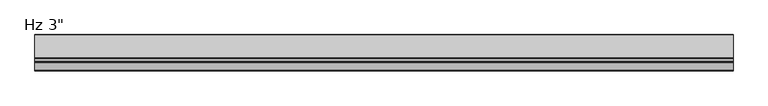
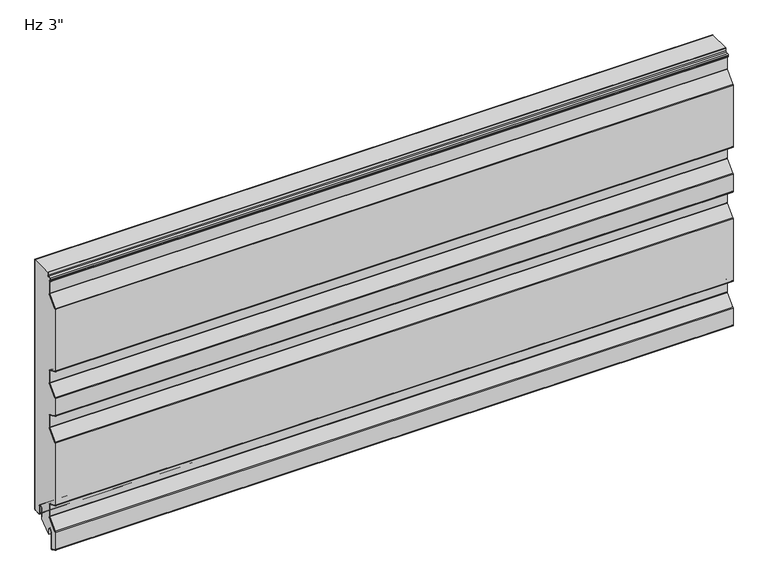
"""IFC4 building model written with IfcOpenShell, lengths in millimetres: plate geometry."""

from ifc_helpers import new_model, si_unit, point, frame, frame_2d, origin, place, context, project, spatial, polyline, circle_curve, trimmed, segment, composite_curve, outline, extrude, source, transform, mapped, element, save


def plate_1bb9bb0e(model_context):
    return source(origin(), model_context, "Body", "SweptSolid", [
        extrude(outline(composite_curve([segment(polyline([(-26.4011912, 19.05), (-26.4011912, -3.1976612), (-49.233822, -23.01875), (-51.3886912, -23.01875), (-51.3886912, -11.90625)]), True, "CONTINUOUS"), segment(trimmed(circle_curve(frame_2d((-56.3574412, -11.90625)), 4.96875), [point((-51.3886912, -11.90625))], [point((-61.3261912, -11.90625))], True, "CARTESIAN"), True, "CONTINUOUS"), segment(polyline([(-61.3261912, -11.90625), (-61.3261912, -48.8194049)]), True, "CONTINUOUS"), segment(trimmed(circle_curve(frame_2d((-62.7074412, -48.8194049)), 1.38125), [point((-61.3261912, -48.8194049))], [point((-63.2666208, -50.0824052))], False, "CARTESIAN"), True, "CONTINUOUS"), segment(polyline([(-63.2666208, -50.0824052), (-74.3779296, -45.1629946)]), True, "CONTINUOUS"), segment(trimmed(circle_curve(frame_2d((-73.81875, -43.8999943)), 1.38125), [point((-74.3779296, -45.1629946))], [point((-75.2, -43.8999943))], False, "CARTESIAN"), True, "CONTINUOUS"), segment(polyline([(-75.2, -43.8999943), (-75.2, -5.0536946)]), True, "CONTINUOUS"), segment(trimmed(circle_curve(frame_2d((-73.1012, -5.0536946)), 2.0988), [point((-75.2, -5.0536946))], [point((-74.6092077, -3.5939431))], False, "CARTESIAN"), True, "CONTINUOUS"), segment(polyline([(-74.6092077, -3.5939431), (-54.4145567, 17.2682996)]), True, "CONTINUOUS"), segment(trimmed(circle_curve(frame_2d((-56.2737, 19.0679503)), 2.5875), [point((-54.4145567, 17.2682996))], [point((-53.6862, 19.0679503))], True, "CARTESIAN"), True, "CONTINUOUS"), segment(polyline([(-53.6862, 19.0679503), (-53.6862, 45.5917981)]), True, "CONTINUOUS"), segment(trimmed(circle_curve(frame_2d((-56.2737, 45.5917981)), 2.5875), [point((-53.6862, 45.5917981))], [point((-55.2261871, 47.9577806))], True, "CARTESIAN"), True, "CONTINUOUS"), segment(polyline([(-55.2261871, 47.9577806), (-74.3779296, 56.4370054)]), True, "CONTINUOUS"), segment(trimmed(circle_curve(frame_2d((-73.81875, 57.7000057)), 1.38125), [point((-74.3779296, 56.4370054))], [point((-75.2, 57.7000057))], False, "CARTESIAN"), True, "CONTINUOUS"), segment(polyline([(-75.2, 57.7000057), (-75.2, 198.4367131)]), True, "CONTINUOUS"), segment(trimmed(circle_curve(frame_2d((-73.81875, 198.4367131)), 1.38125), [point((-75.2, 198.4367131))], [point((-74.8111912, 199.3973962))], False, "CARTESIAN"), True, "CONTINUOUS"), segment(polyline([(-74.8111912, 199.3973962), (-54.4145567, 220.4682996)]), True, "CONTINUOUS"), segment(trimmed(circle_curve(frame_2d((-56.2737, 222.2679503)), 2.5875), [point((-54.4145567, 220.4682996))], [point((-53.6862, 222.2679503))], True, "CARTESIAN"), True, "CONTINUOUS"), segment(polyline([(-53.6862, 222.2679503), (-53.6862, 248.7917981)]), True, "CONTINUOUS"), segment(trimmed(circle_curve(frame_2d((-56.2737, 248.7917981)), 2.5875), [point((-53.6862, 248.7917981))], [point((-55.2261871, 251.1577806))], True, "CARTESIAN"), True, "CONTINUOUS"), segment(polyline([(-55.2261871, 251.1577806), (-74.3779296, 259.6370054)]), True, "CONTINUOUS"), segment(trimmed(circle_curve(frame_2d((-73.81875, 260.9000057)), 1.38125), [point((-74.3779296, 259.6370054))], [point((-75.2, 260.9000057))], False, "CARTESIAN"), True, "CONTINUOUS"), segment(polyline([(-75.2, 260.9000057), (-75.2, 300.0367131)]), True, "CONTINUOUS"), segment(trimmed(circle_curve(frame_2d((-73.81875, 300.0367131)), 1.38125), [point((-75.2, 300.0367131))], [point((-74.8111912, 300.9973962))], False, "CARTESIAN"), True, "CONTINUOUS"), segment(polyline([(-74.8111912, 300.9973962), (-54.4145567, 322.0682996)]), True, "CONTINUOUS"), segment(trimmed(circle_curve(frame_2d((-56.2737, 323.8679503)), 2.5875), [point((-54.4145567, 322.0682996))], [point((-53.6862, 323.8679503))], True, "CARTESIAN"), True, "CONTINUOUS"), segment(polyline([(-53.6862, 323.8679503), (-53.6862, 350.3917981)]), True, "CONTINUOUS"), segment(trimmed(circle_curve(frame_2d((-56.2737, 350.3917981)), 2.5875), [point((-53.6862, 350.3917981))], [point((-55.2261871, 352.7577806))], True, "CARTESIAN"), True, "CONTINUOUS"), segment(polyline([(-55.2261871, 352.7577806), (-74.3779296, 361.2370054)]), True, "CONTINUOUS"), segment(trimmed(circle_curve(frame_2d((-73.81875, 362.5000057)), 1.38125), [point((-74.3779296, 361.2370054))], [point((-75.2, 362.5000057))], False, "CARTESIAN"), True, "CONTINUOUS"), segment(polyline([(-75.2, 362.5000057), (-75.2, 503.2367131)]), True, "CONTINUOUS"), segment(trimmed(circle_curve(frame_2d((-73.81875, 503.2367131)), 1.38125), [point((-75.2, 503.2367131))], [point((-74.8111912, 504.1973962))], False, "CARTESIAN"), True, "CONTINUOUS"), segment(polyline([(-74.8111912, 504.1973962), (-54.4145567, 525.2682996)]), True, "CONTINUOUS"), segment(trimmed(circle_curve(frame_2d((-56.2737, 527.0679503)), 2.5875), [point((-54.4145567, 525.2682996))], [point((-53.6862, 527.0679503))], True, "CARTESIAN"), True, "CONTINUOUS"), segment(polyline([(-53.6862, 527.0679503), (-53.6862, 553.5917981)]), True, "CONTINUOUS"), segment(trimmed(circle_curve(frame_2d((-56.2737, 553.5917981)), 2.5875), [point((-53.6862, 553.5917981))], [point((-55.2261871, 555.9577806))], True, "CARTESIAN"), True, "CONTINUOUS"), segment(polyline([(-55.2261871, 555.9577806), (-56.9166208, 556.7062016)]), True, "CONTINUOUS"), segment(trimmed(circle_curve(frame_2d((-56.3574412, 557.9692019)), 1.38125), [point((-56.9166208, 556.7062016))], [point((-57.7386912, 557.9692019))], False, "CARTESIAN"), True, "CONTINUOUS"), segment(polyline([(-57.7386912, 557.9692019), (-57.7386912, 560.2967085)]), True, "CONTINUOUS"), segment(trimmed(circle_curve(frame_2d((-56.3574412, 560.2967085)), 1.38125), [point((-57.7386912, 560.2967085))], [point((-56.4297302, 561.6760655))], False, "CARTESIAN"), True, "CONTINUOUS"), segment(polyline([(-56.4297302, 561.6760655), (-50.6657719, 561.9781418)]), True, "CONTINUOUS"), segment(trimmed(circle_curve(frame_2d((-50.8011912, 564.5620957)), 2.5875), [point((-50.6657719, 561.9781418))], [point((-48.2136912, 564.5620957))], True, "CARTESIAN"), True, "CONTINUOUS"), segment(polyline([(-48.2136912, 564.5620957), (-48.2136912, 571.2), (-1.0011912, 571.2), (-1.0011912, 3.175)]), True, "CONTINUOUS"), segment(trimmed(circle_curve(frame_2d((-2.3824412, 3.175)), 1.38125), [point((-1.0011912, 3.175))], [point((-2.3824412, 1.79375))], False, "CARTESIAN"), True, "CONTINUOUS"), segment(polyline([(-2.3824412, 1.79375), (-15.0824412, 1.79375)]), True, "CONTINUOUS"), segment(trimmed(circle_curve(frame_2d((-15.0824412, 3.175)), 1.38125), [point((-15.0824412, 1.79375))], [point((-16.4636912, 3.175))], False, "CARTESIAN"), True, "CONTINUOUS"), segment(polyline([(-16.4636912, 3.175), (-16.4636912, 19.05)]), True, "CONTINUOUS"), segment(trimmed(circle_curve(frame_2d((-21.4324412, 19.05)), 4.96875), [point((-16.4636912, 19.05))], [point((-26.4011912, 19.05))], True, "CARTESIAN"), True, "CONTINUOUS")], self_intersect=False)), frame((-730.0, 0.0, 0.0), z_axis=(1.0, 0.0, 0.0), x_axis=(0.0, 1.0, 0.0)), (0.0, 0.0, 1.0), 1460.0),
        extrude(outline(composite_curve([segment(polyline([(-25.4, 0.79375), (-26.4, 0.79375), (-26.4, 19.05)]), True, "CONTINUOUS"), segment(trimmed(circle_curve(frame_2d((-21.43125, 19.05)), 4.96875), [point((-26.4, 19.05))], [point((-16.4625, 19.05))], False, "CARTESIAN"), True, "CONTINUOUS"), segment(polyline([(-16.4625, 19.05), (-16.4625, 3.175)]), True, "CONTINUOUS"), segment(trimmed(circle_curve(frame_2d((-15.08125, 3.175)), 1.38125), [point((-16.4625, 3.175))], [point((-15.08125, 1.79375))], True, "CARTESIAN"), True, "CONTINUOUS"), segment(polyline([(-15.08125, 1.79375), (-2.38125, 1.79375)]), True, "CONTINUOUS"), segment(trimmed(circle_curve(frame_2d((-2.38125, 3.175)), 1.38125), [point((-2.38125, 1.79375))], [point((-1.0, 3.175))], True, "CARTESIAN"), True, "CONTINUOUS"), segment(polyline([(-1.0, 3.175), (-1.0, 571.2), (0.0, 571.2), (0.0, 3.175)]), True, "CONTINUOUS"), segment(trimmed(circle_curve(frame_2d((-2.38125, 3.175)), 2.38125), [point((0.0, 3.175))], [point((-2.38125, 0.79375))], False, "CARTESIAN"), True, "CONTINUOUS"), segment(polyline([(-2.38125, 0.79375), (-15.08125, 0.79375)]), True, "CONTINUOUS"), segment(trimmed(circle_curve(frame_2d((-15.08125, 3.175)), 2.38125), [point((-15.08125, 0.79375))], [point((-17.4625, 3.175))], False, "CARTESIAN"), True, "CONTINUOUS"), segment(polyline([(-17.4625, 3.175), (-17.4625, 19.05)]), True, "CONTINUOUS"), segment(trimmed(circle_curve(frame_2d((-21.43125, 19.05)), 3.96875), [point((-17.4625, 19.05))], [point((-25.4, 19.05))], True, "CARTESIAN"), True, "CONTINUOUS"), segment(polyline([(-25.4, 19.05), (-25.4, 0.79375)]), True, "CONTINUOUS")], self_intersect=False)), frame((-730.0, 0.0, 0.0), z_axis=(1.0, 0.0, 0.0), x_axis=(0.0, 1.0, 0.0)), (0.0, 0.0, 1.0), 1460.0),
        extrude(outline(composite_curve([segment(polyline([(-60.3261912, -11.90625), (-60.3261912, -48.8194049)]), True, "CONTINUOUS"), segment(trimmed(circle_curve(frame_2d((-62.7074412, -48.8194049)), 2.38125), [point((-60.3261912, -48.8194049))], [point((-63.6714567, -50.9967946))], False, "CARTESIAN"), True, "CONTINUOUS"), segment(polyline([(-63.6714567, -50.9967946), (-74.7827655, -46.0773839)]), True, "CONTINUOUS"), segment(trimmed(circle_curve(frame_2d((-73.81875, -43.8999943)), 2.38125), [point((-74.7827655, -46.0773839))], [point((-76.2, -43.8999943))], False, "CARTESIAN"), True, "CONTINUOUS"), segment(polyline([(-76.2, -43.8999943), (-76.2, -5.0536946)]), True, "CONTINUOUS"), segment(trimmed(circle_curve(frame_2d((-73.1012, -5.0536946)), 3.0988), [point((-76.2, -5.0536946))], [point((-75.3277172, -2.8984259))], False, "CARTESIAN"), True, "CONTINUOUS"), segment(polyline([(-75.3277172, -2.8984259), (-55.1330662, 17.9638168)]), True, "CONTINUOUS"), segment(trimmed(circle_curve(frame_2d((-56.2737, 19.0679503)), 1.5875), [point((-55.1330662, 17.9638168))], [point((-54.6862, 19.0679503))], True, "CARTESIAN"), True, "CONTINUOUS"), segment(polyline([(-54.6862, 19.0679503), (-54.6862, 45.5917981)]), True, "CONTINUOUS"), segment(trimmed(circle_curve(frame_2d((-56.2737, 45.5917981)), 1.5875), [point((-54.6862, 45.5917981))], [point((-55.631023, 47.0433912))], True, "CARTESIAN"), True, "CONTINUOUS"), segment(polyline([(-55.631023, 47.0433912), (-74.7827655, 55.5226161)]), True, "CONTINUOUS"), segment(trimmed(circle_curve(frame_2d((-73.81875, 57.7000057)), 2.38125), [point((-74.7827655, 55.5226161))], [point((-76.2, 57.7000057))], False, "CARTESIAN"), True, "CONTINUOUS"), segment(polyline([(-76.2, 57.7000057), (-76.2, 198.4367131)]), True, "CONTINUOUS"), segment(trimmed(circle_curve(frame_2d((-73.81875, 198.4367131)), 2.38125), [point((-76.2, 198.4367131))], [point((-75.5297007, 200.0929134))], False, "CARTESIAN"), True, "CONTINUOUS"), segment(polyline([(-75.5297007, 200.0929134), (-55.1330662, 221.1638168)]), True, "CONTINUOUS"), segment(trimmed(circle_curve(frame_2d((-56.2737, 222.2679503)), 1.5875), [point((-55.1330662, 221.1638168))], [point((-54.6862, 222.2679503))], True, "CARTESIAN"), True, "CONTINUOUS"), segment(polyline([(-54.6862, 222.2679503), (-54.6862, 248.7917981)]), True, "CONTINUOUS"), segment(trimmed(circle_curve(frame_2d((-56.2737, 248.7917981)), 1.5875), [point((-54.6862, 248.7917981))], [point((-55.631023, 250.2433912))], True, "CARTESIAN"), True, "CONTINUOUS"), segment(polyline([(-55.631023, 250.2433912), (-74.7827655, 258.7226161)]), True, "CONTINUOUS"), segment(trimmed(circle_curve(frame_2d((-73.81875, 260.9000057)), 2.38125), [point((-74.7827655, 258.7226161))], [point((-76.2, 260.9000057))], False, "CARTESIAN"), True, "CONTINUOUS"), segment(polyline([(-76.2, 260.9000057), (-76.2, 300.0367131)]), True, "CONTINUOUS"), segment(trimmed(circle_curve(frame_2d((-73.81875, 300.0367131)), 2.38125), [point((-76.2, 300.0367131))], [point((-75.5297007, 301.6929134))], False, "CARTESIAN"), True, "CONTINUOUS"), segment(polyline([(-75.5297007, 301.6929134), (-55.1330662, 322.7638168)]), True, "CONTINUOUS"), segment(trimmed(circle_curve(frame_2d((-56.2737, 323.8679503)), 1.5875), [point((-55.1330662, 322.7638168))], [point((-54.6862, 323.8679503))], True, "CARTESIAN"), True, "CONTINUOUS"), segment(polyline([(-54.6862, 323.8679503), (-54.6862, 350.3917981)]), True, "CONTINUOUS"), segment(trimmed(circle_curve(frame_2d((-56.2737, 350.3917981)), 1.5875), [point((-54.6862, 350.3917981))], [point((-55.631023, 351.8433912))], True, "CARTESIAN"), True, "CONTINUOUS"), segment(polyline([(-55.631023, 351.8433912), (-74.7827655, 360.3226161)]), True, "CONTINUOUS"), segment(trimmed(circle_curve(frame_2d((-73.81875, 362.5000057)), 2.38125), [point((-74.7827655, 360.3226161))], [point((-76.2, 362.5000057))], False, "CARTESIAN"), True, "CONTINUOUS"), segment(polyline([(-76.2, 362.5000057), (-76.2, 503.2367131)]), True, "CONTINUOUS"), segment(trimmed(circle_curve(frame_2d((-73.81875, 503.2367131)), 2.38125), [point((-76.2, 503.2367131))], [point((-75.5297007, 504.8929134))], False, "CARTESIAN"), True, "CONTINUOUS"), segment(polyline([(-75.5297007, 504.8929134), (-55.1330662, 525.9638168)]), True, "CONTINUOUS"), segment(trimmed(circle_curve(frame_2d((-56.2737, 527.0679503)), 1.5875), [point((-55.1330662, 525.9638168))], [point((-54.6862, 527.0679503))], True, "CARTESIAN"), True, "CONTINUOUS"), segment(polyline([(-54.6862, 527.0679503), (-54.6862, 553.5917981)]), True, "CONTINUOUS"), segment(trimmed(circle_curve(frame_2d((-56.2737, 553.5917981)), 1.5875), [point((-54.6862, 553.5917981))], [point((-55.631023, 555.0433912))], True, "CARTESIAN"), True, "CONTINUOUS"), segment(polyline([(-55.631023, 555.0433912), (-57.3214567, 555.7918123)]), True, "CONTINUOUS"), segment(trimmed(circle_curve(frame_2d((-56.3574412, 557.9692019)), 2.38125), [point((-57.3214567, 555.7918123))], [point((-58.7386912, 557.9692019))], False, "CARTESIAN"), True, "CONTINUOUS"), segment(polyline([(-58.7386912, 557.9692019), (-58.7386912, 560.2967085)]), True, "CONTINUOUS"), segment(trimmed(circle_curve(frame_2d((-56.3574412, 560.2967085)), 2.38125), [point((-58.7386912, 560.2967085))], [point((-56.4820662, 562.6746951))], False, "CARTESIAN"), True, "CONTINUOUS"), segment(polyline([(-56.4820662, 562.6746951), (-50.7181078, 562.9767713)]), True, "CONTINUOUS"), segment(trimmed(circle_curve(frame_2d((-50.8011912, 564.5620957)), 1.5875), [point((-50.7181078, 562.9767713))], [point((-49.2136912, 564.5620957))], True, "CARTESIAN"), True, "CONTINUOUS"), segment(polyline([(-49.2136912, 564.5620957), (-49.2136912, 571.2), (-48.2136912, 571.2), (-48.2136912, 564.5620957)]), True, "CONTINUOUS"), segment(trimmed(circle_curve(frame_2d((-50.8011912, 564.5620957)), 2.5875), [point((-48.2136912, 564.5620957))], [point((-50.6657719, 561.9781418))], False, "CARTESIAN"), True, "CONTINUOUS"), segment(polyline([(-50.6657719, 561.9781418), (-56.4297302, 561.6760655)]), True, "CONTINUOUS"), segment(trimmed(circle_curve(frame_2d((-56.3574412, 560.2967085)), 1.38125), [point((-56.4297302, 561.6760655))], [point((-57.7386912, 560.2967085))], True, "CARTESIAN"), True, "CONTINUOUS"), segment(polyline([(-57.7386912, 560.2967085), (-57.7386912, 557.9692019)]), True, "CONTINUOUS"), segment(trimmed(circle_curve(frame_2d((-56.3574412, 557.9692019)), 1.38125), [point((-57.7386912, 557.9692019))], [point((-56.9166208, 556.7062016))], True, "CARTESIAN"), True, "CONTINUOUS"), segment(polyline([(-56.9166208, 556.7062016), (-55.2261871, 555.9577806)]), True, "CONTINUOUS"), segment(trimmed(circle_curve(frame_2d((-56.2737, 553.5917981)), 2.5875), [point((-55.2261871, 555.9577806))], [point((-53.6862, 553.5917981))], False, "CARTESIAN"), True, "CONTINUOUS"), segment(polyline([(-53.6862, 553.5917981), (-53.6862, 527.0679503)]), True, "CONTINUOUS"), segment(trimmed(circle_curve(frame_2d((-56.2737, 527.0679503)), 2.5875), [point((-53.6862, 527.0679503))], [point((-54.4145567, 525.2682996))], False, "CARTESIAN"), True, "CONTINUOUS"), segment(polyline([(-54.4145567, 525.2682996), (-74.8111912, 504.1973962)]), True, "CONTINUOUS"), segment(trimmed(circle_curve(frame_2d((-73.81875, 503.2367131)), 1.38125), [point((-74.8111912, 504.1973962))], [point((-75.2, 503.2367131))], True, "CARTESIAN"), True, "CONTINUOUS"), segment(polyline([(-75.2, 503.2367131), (-75.2, 362.5000057)]), True, "CONTINUOUS"), segment(trimmed(circle_curve(frame_2d((-73.81875, 362.5000057)), 1.38125), [point((-75.2, 362.5000057))], [point((-74.3779296, 361.2370054))], True, "CARTESIAN"), True, "CONTINUOUS"), segment(polyline([(-74.3779296, 361.2370054), (-55.2261871, 352.7577806)]), True, "CONTINUOUS"), segment(trimmed(circle_curve(frame_2d((-56.2737, 350.3917981)), 2.5875), [point((-55.2261871, 352.7577806))], [point((-53.6862, 350.3917981))], False, "CARTESIAN"), True, "CONTINUOUS"), segment(polyline([(-53.6862, 350.3917981), (-53.6862, 323.8679503)]), True, "CONTINUOUS"), segment(trimmed(circle_curve(frame_2d((-56.2737, 323.8679503)), 2.5875), [point((-53.6862, 323.8679503))], [point((-54.4145567, 322.0682996))], False, "CARTESIAN"), True, "CONTINUOUS"), segment(polyline([(-54.4145567, 322.0682996), (-74.8111912, 300.9973962)]), True, "CONTINUOUS"), segment(trimmed(circle_curve(frame_2d((-73.81875, 300.0367131)), 1.38125), [point((-74.8111912, 300.9973962))], [point((-75.2, 300.0367131))], True, "CARTESIAN"), True, "CONTINUOUS"), segment(polyline([(-75.2, 300.0367131), (-75.2, 260.9000057)]), True, "CONTINUOUS"), segment(trimmed(circle_curve(frame_2d((-73.81875, 260.9000057)), 1.38125), [point((-75.2, 260.9000057))], [point((-74.3779296, 259.6370054))], True, "CARTESIAN"), True, "CONTINUOUS"), segment(polyline([(-74.3779296, 259.6370054), (-55.2261871, 251.1577806)]), True, "CONTINUOUS"), segment(trimmed(circle_curve(frame_2d((-56.2737, 248.7917981)), 2.5875), [point((-55.2261871, 251.1577806))], [point((-53.6862, 248.7917981))], False, "CARTESIAN"), True, "CONTINUOUS"), segment(polyline([(-53.6862, 248.7917981), (-53.6862, 222.2679503)]), True, "CONTINUOUS"), segment(trimmed(circle_curve(frame_2d((-56.2737, 222.2679503)), 2.5875), [point((-53.6862, 222.2679503))], [point((-54.4145567, 220.4682996))], False, "CARTESIAN"), True, "CONTINUOUS"), segment(polyline([(-54.4145567, 220.4682996), (-74.8111912, 199.3973962)]), True, "CONTINUOUS"), segment(trimmed(circle_curve(frame_2d((-73.81875, 198.4367131)), 1.38125), [point((-74.8111912, 199.3973962))], [point((-75.2, 198.4367131))], True, "CARTESIAN"), True, "CONTINUOUS"), segment(polyline([(-75.2, 198.4367131), (-75.2, 57.7000057)]), True, "CONTINUOUS"), segment(trimmed(circle_curve(frame_2d((-73.81875, 57.7000057)), 1.38125), [point((-75.2, 57.7000057))], [point((-74.3779296, 56.4370054))], True, "CARTESIAN"), True, "CONTINUOUS"), segment(polyline([(-74.3779296, 56.4370054), (-55.2261871, 47.9577806)]), True, "CONTINUOUS"), segment(trimmed(circle_curve(frame_2d((-56.2737, 45.5917981)), 2.5875), [point((-55.2261871, 47.9577806))], [point((-53.6862, 45.5917981))], False, "CARTESIAN"), True, "CONTINUOUS"), segment(polyline([(-53.6862, 45.5917981), (-53.6862, 19.0679503)]), True, "CONTINUOUS"), segment(trimmed(circle_curve(frame_2d((-56.2737, 19.0679503)), 2.5875), [point((-53.6862, 19.0679503))], [point((-54.4145567, 17.2682996))], False, "CARTESIAN"), True, "CONTINUOUS"), segment(polyline([(-54.4145567, 17.2682996), (-74.6092077, -3.5939431)]), True, "CONTINUOUS"), segment(trimmed(circle_curve(frame_2d((-73.1012, -5.0536946)), 2.0988), [point((-74.6092077, -3.5939431))], [point((-75.2, -5.0536946))], True, "CARTESIAN"), True, "CONTINUOUS"), segment(polyline([(-75.2, -5.0536946), (-75.2, -43.8999943)]), True, "CONTINUOUS"), segment(trimmed(circle_curve(frame_2d((-73.81875, -43.8999943)), 1.38125), [point((-75.2, -43.8999943))], [point((-74.3779296, -45.1629946))], True, "CARTESIAN"), True, "CONTINUOUS"), segment(polyline([(-74.3779296, -45.1629946), (-63.2666208, -50.0824052)]), True, "CONTINUOUS"), segment(trimmed(circle_curve(frame_2d((-62.7074412, -48.8194049)), 1.38125), [point((-63.2666208, -50.0824052))], [point((-61.3261912, -48.8194049))], True, "CARTESIAN"), True, "CONTINUOUS"), segment(polyline([(-61.3261912, -48.8194049), (-61.3261912, -11.90625)]), True, "CONTINUOUS"), segment(trimmed(circle_curve(frame_2d((-56.3574412, -11.90625)), 4.96875), [point((-61.3261912, -11.90625))], [point((-51.3886912, -11.90625))], False, "CARTESIAN"), True, "CONTINUOUS"), segment(polyline([(-51.3886912, -11.90625), (-51.3886912, -23.01875), (-52.3886912, -23.01875), (-52.3886912, -11.90625)]), True, "CONTINUOUS"), segment(trimmed(circle_curve(frame_2d((-56.3574412, -11.90625)), 3.96875), [point((-52.3886912, -11.90625))], [point((-60.3261912, -11.90625))], True, "CARTESIAN"), True, "CONTINUOUS")], self_intersect=False)), frame((-730.0, 0.0, 0.0), z_axis=(1.0, 0.0, 0.0), x_axis=(0.0, 1.0, 0.0)), (0.0, 0.0, 1.0), 1460.0),
    ])


if __name__ == "__main__":
    model = new_model("IFC4")
    model_context = context("Model", 3, world=origin())
    ifc_project = project(units=[si_unit("LENGTHUNIT", "METRE", prefix="MILLI")], contexts=[model_context])
    site = spatial("IfcSite", under=ifc_project)
    building = spatial("IfcBuilding", under=site)
    placement = place(None, origin())
    plate_shape = plate_1bb9bb0e(model_context)
    element("IfcPlate", 1, ObjectType="KIP-24-DWR-R19-CP-Hz-A : Hz 3\"", at=placement, inside=building, context=model_context, shape_type="MappedRepresentation", body=[
        mapped(plate_shape, transform((0.0, 0.0, 0.0), x_axis=(1.0, 0.0, 0.0), y_axis=(0.0, 1.0, 0.0), z_axis=(0.0, 0.0, 1.0))),
    ])
    save(model, "model.ifc")
